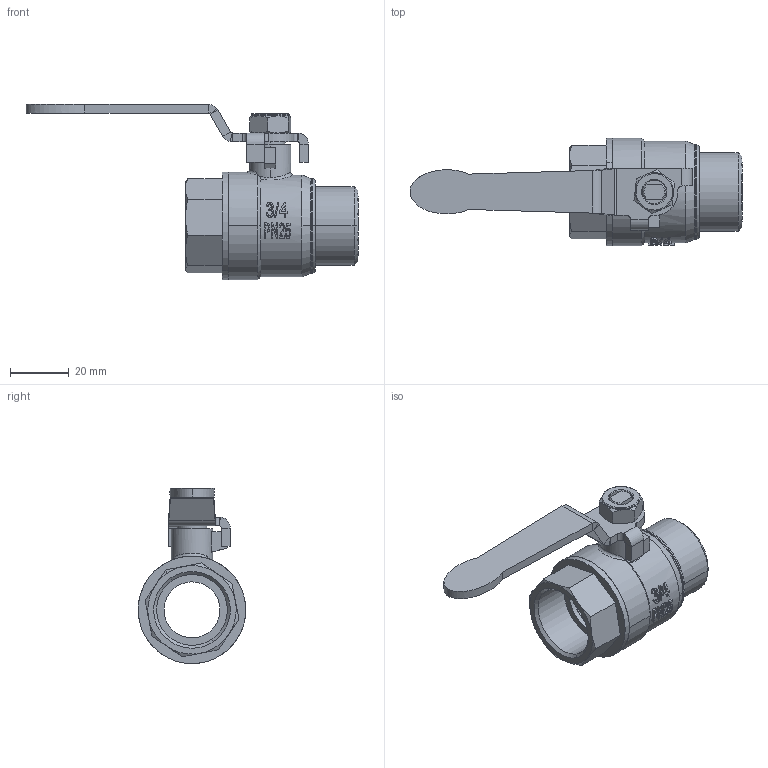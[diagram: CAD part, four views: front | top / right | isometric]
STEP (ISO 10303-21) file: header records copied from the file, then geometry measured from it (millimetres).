
FILE_DESCRIPTION(/* description */ (''),/* implementation_level */ '2;1');
FILE_NAME(/* name */ '1273.stp',/* time_stamp */ '2022-05-12T16:26:20+08:00',/* author */ (''),/* organization */ (''),/* preprocessor_version */ 'ST-DEVELOPER v11',/* originating_system */ 'SIEMENS PLM Software NX 7.5',/* authorisation */ '');
FILE_SCHEMA (('CONFIG_CONTROL_DESIGN'));
Length unit declared in the file: millimetre
Products named in the file (1): 1273
Bounding box: 112.62 x 36.5 x 59.48 mm (x, y, z)
Volume: 24770.1 mm3; surface area: 20766.1 mm2
Topology: 5 solids, 5 shells, 331 faces, 810 edges, 509 vertices
Faces by surface type: plane 116, cylinder 84, bspline 66, cone 43, torus 20, sphere 2
Full cylindrical faces by diameter (mm): 34.5 x1
Entity records: 26303 total; most frequent: CARTESIAN_POINT 18912, ORIENTED_EDGE 1626, DIRECTION 1337, EDGE_CURVE 813, AXIS2_PLACEMENT_3D 524, VERTEX_POINT 513, EDGE_LOOP 362, ADVANCED_FACE 331
